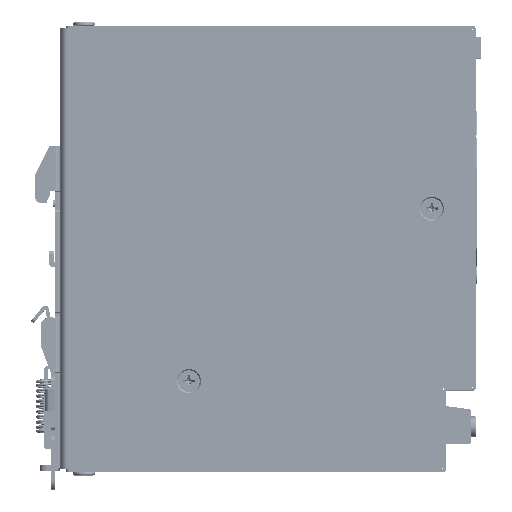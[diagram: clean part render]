
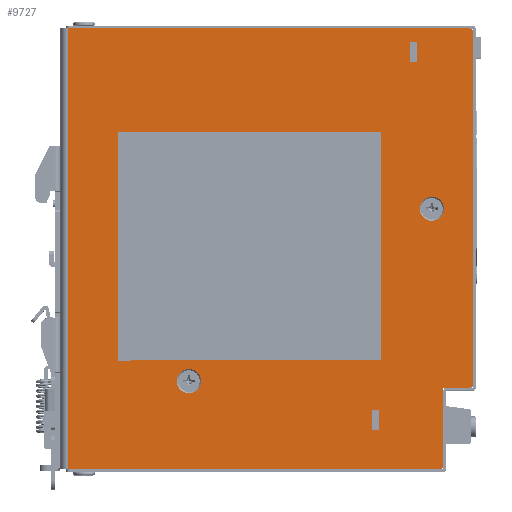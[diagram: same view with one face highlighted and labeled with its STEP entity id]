
A CAD part, top view. The second image highlights one B-rep face of the part: STEP entity #9727.
In plain terms, the highlighted planar face has unit normal (0, 0, 1).
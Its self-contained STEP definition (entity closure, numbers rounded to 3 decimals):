
#4291=DIRECTION('',(0.,-1.,0.));
#4292=VECTOR('',#4291,122.4);
#4293=CARTESIAN_POINT('',(0.5,61.2,20.));
#4294=LINE('',#4293,#4292);
#4321=CARTESIAN_POINT('',(112.1,60.2,20.));
#4322=DIRECTION('',(0.,0.,1.));
#4323=DIRECTION('',(1.,0.,0.));
#4324=AXIS2_PLACEMENT_3D('',#4321,#4322,#4323);
#4329=DIRECTION('',(0.,1.,0.));
#4330=VECTOR('',#4329,97.8);
#4331=CARTESIAN_POINT('',(113.1,-37.6,20.));
#4332=LINE('',#4331,#4330);
#4336=CARTESIAN_POINT('',(112.1,-37.6,20.));
#4337=DIRECTION('',(0.,0.,1.));
#4338=DIRECTION('',(0.,-1.,0.));
#4339=AXIS2_PLACEMENT_3D('',#4336,#4337,#4338);
#4344=DIRECTION('',(-1.,0.,0.));
#4345=VECTOR('',#4344,7.2);
#4346=CARTESIAN_POINT('',(112.1,-38.6,20.));
#4347=LINE('',#4346,#4345);
#4351=DIRECTION('',(0.,1.,0.));
#4352=VECTOR('',#4351,21.6);
#4353=CARTESIAN_POINT('',(104.9,-60.2,20.));
#4354=LINE('',#4353,#4352);
#4358=CARTESIAN_POINT('',(103.9,-60.2,20.));
#4359=DIRECTION('',(0.,0.,1.));
#4360=DIRECTION('',(0.,-1.,0.));
#4361=AXIS2_PLACEMENT_3D('',#4358,#4359,#4360);
#4366=DIRECTION('',(1.,0.,0.));
#4367=VECTOR('',#4366,103.4);
#4368=CARTESIAN_POINT('',(0.5,-61.2,20.));
#4369=LINE('',#4368,#4367);
#4373=DIRECTION('',(-1.,0.,0.));
#4374=VECTOR('',#4373,111.6);
#4375=CARTESIAN_POINT('',(112.1,61.2,20.));
#4376=LINE('',#4375,#4374);
#4380=CARTESIAN_POINT('',(101.7,11.1,20.));
#4381=DIRECTION('',(0.,0.,1.));
#4382=DIRECTION('',(-1.,0.,0.));
#4383=AXIS2_PLACEMENT_3D('',#4380,#4381,#4382);
#4388=CARTESIAN_POINT('',(101.7,11.1,20.));
#4389=DIRECTION('',(0.,0.,1.));
#4390=DIRECTION('',(1.,0.,0.));
#4391=AXIS2_PLACEMENT_3D('',#4388,#4389,#4390);
#4396=DIRECTION('',(0.,-1.,0.));
#4397=VECTOR('',#4396,5.6);
#4398=CARTESIAN_POINT('',(97.55,57.5,20.));
#4399=LINE('',#4398,#4397);
#4403=DIRECTION('',(1.,0.,0.));
#4404=VECTOR('',#4403,1.9);
#4405=CARTESIAN_POINT('',(95.65,57.5,20.));
#4406=LINE('',#4405,#4404);
#4410=DIRECTION('',(0.,1.,0.));
#4411=VECTOR('',#4410,5.6);
#4412=CARTESIAN_POINT('',(95.65,51.9,20.));
#4413=LINE('',#4412,#4411);
#4417=DIRECTION('',(-1.,0.,0.));
#4418=VECTOR('',#4417,1.9);
#4419=CARTESIAN_POINT('',(97.55,51.9,20.));
#4420=LINE('',#4419,#4418);
#4424=DIRECTION('',(0.,-1.,0.));
#4425=VECTOR('',#4424,5.6);
#4426=CARTESIAN_POINT('',(87.05,-44.8,20.));
#4427=LINE('',#4426,#4425);
#4431=DIRECTION('',(1.,0.,0.));
#4432=VECTOR('',#4431,1.9);
#4433=CARTESIAN_POINT('',(85.15,-44.8,20.));
#4434=LINE('',#4433,#4432);
#4438=DIRECTION('',(0.,1.,0.));
#4439=VECTOR('',#4438,5.6);
#4440=CARTESIAN_POINT('',(85.15,-50.4,20.));
#4441=LINE('',#4440,#4439);
#4445=DIRECTION('',(-1.,0.,0.));
#4446=VECTOR('',#4445,1.9);
#4447=CARTESIAN_POINT('',(87.05,-50.4,20.));
#4448=LINE('',#4447,#4446);
#4452=CARTESIAN_POINT('',(34.2,-36.8,20.));
#4453=DIRECTION('',(0.,0.,1.));
#4454=DIRECTION('',(-1.,0.,0.));
#4455=AXIS2_PLACEMENT_3D('',#4452,#4453,#4454);
#4460=CARTESIAN_POINT('',(34.2,-36.8,20.));
#4461=DIRECTION('',(0.,0.,1.));
#4462=DIRECTION('',(1.,0.,0.));
#4463=AXIS2_PLACEMENT_3D('',#4460,#4461,#4462);
#4468=DIRECTION('',(-1.,0.,0.));
#4469=VECTOR('',#4468,0.2);
#4470=CARTESIAN_POINT('',(14.7,7.3,20.));
#4471=LINE('',#4470,#4469);
#4475=DIRECTION('',(0.,-1.,0.));
#4476=VECTOR('',#4475,20.);
#4477=CARTESIAN_POINT('',(14.5,7.3,20.));
#4478=LINE('',#4477,#4476);
#4482=DIRECTION('',(1.,0.,0.));
#4483=VECTOR('',#4482,0.2);
#4484=CARTESIAN_POINT('',(14.5,-12.7,20.));
#4485=LINE('',#4484,#4483);
#4489=DIRECTION('',(0.,1.,0.));
#4490=VECTOR('',#4489,20.);
#4491=CARTESIAN_POINT('',(14.7,-12.7,20.));
#4492=LINE('',#4491,#4490);
#4496=DIRECTION('',(0.,1.,0.));
#4497=VECTOR('',#4496,0.2);
#4498=CARTESIAN_POINT('',(18.,-31.2,20.));
#4499=LINE('',#4498,#4497);
#4503=DIRECTION('',(-1.,0.,0.));
#4504=VECTOR('',#4503,3.3);
#4505=CARTESIAN_POINT('',(18.,-31.,20.));
#4506=LINE('',#4505,#4504);
#4510=DIRECTION('',(0.,1.,0.));
#4511=VECTOR('',#4510,3.3);
#4512=CARTESIAN_POINT('',(14.7,-31.,20.));
#4513=LINE('',#4512,#4511);
#4517=DIRECTION('',(-1.,0.,0.));
#4518=VECTOR('',#4517,0.2);
#4519=CARTESIAN_POINT('',(14.7,-27.7,20.));
#4520=LINE('',#4519,#4518);
#4524=DIRECTION('',(0.,-1.,0.));
#4525=VECTOR('',#4524,3.5);
#4526=CARTESIAN_POINT('',(14.5,-27.7,20.));
#4527=LINE('',#4526,#4525);
#4531=DIRECTION('',(1.,0.,0.));
#4532=VECTOR('',#4531,3.5);
#4533=CARTESIAN_POINT('',(14.5,-31.2,20.));
#4534=LINE('',#4533,#4532);
#5204=CARTESIAN_POINT('',(0.5,61.2,20.));
#5205=CARTESIAN_POINT('',(0.5,-61.2,20.));
#5206=VERTEX_POINT('',#5204);
#5207=VERTEX_POINT('',#5205);
#5473=CARTESIAN_POINT('',(104.9,-38.6,20.));
#5475=VERTEX_POINT('',#5473);
#5488=CARTESIAN_POINT('',(87.05,-44.8,20.));
#5489=CARTESIAN_POINT('',(87.05,-50.4,20.));
#5490=VERTEX_POINT('',#5488);
#5491=VERTEX_POINT('',#5489);
#5492=CARTESIAN_POINT('',(85.15,-50.4,20.));
#5493=VERTEX_POINT('',#5492);
#5494=CARTESIAN_POINT('',(85.15,-44.8,20.));
#5495=VERTEX_POINT('',#5494);
#5504=CARTESIAN_POINT('',(97.55,57.5,20.));
#5505=CARTESIAN_POINT('',(97.55,51.9,20.));
#5506=VERTEX_POINT('',#5504);
#5507=VERTEX_POINT('',#5505);
#5508=CARTESIAN_POINT('',(95.65,51.9,20.));
#5509=VERTEX_POINT('',#5508);
#5510=CARTESIAN_POINT('',(95.65,57.5,20.));
#5511=VERTEX_POINT('',#5510);
#5804=CARTESIAN_POINT('',(113.1,60.2,20.));
#5805=CARTESIAN_POINT('',(112.1,61.2,20.));
#5806=VERTEX_POINT('',#5804);
#5807=VERTEX_POINT('',#5805);
#5822=CARTESIAN_POINT('',(113.1,-37.6,20.));
#5823=VERTEX_POINT('',#5822);
#5830=CARTESIAN_POINT('',(112.1,-38.6,20.));
#5831=VERTEX_POINT('',#5830);
#5840=CARTESIAN_POINT('',(103.9,-61.2,20.));
#5841=VERTEX_POINT('',#5840);
#5842=CARTESIAN_POINT('',(104.9,-60.2,20.));
#5843=VERTEX_POINT('',#5842);
#6006=CARTESIAN_POINT('',(98.35,11.1,20.));
#6007=CARTESIAN_POINT('',(105.05,11.1,20.));
#6008=VERTEX_POINT('',#6006);
#6009=VERTEX_POINT('',#6007);
#6014=CARTESIAN_POINT('',(30.84,-36.8,20.));
#6015=CARTESIAN_POINT('',(37.56,-36.8,20.));
#6016=VERTEX_POINT('',#6014);
#6017=VERTEX_POINT('',#6015);
#6042=CARTESIAN_POINT('',(14.7,7.3,20.));
#6043=CARTESIAN_POINT('',(14.5,7.3,20.));
#6044=VERTEX_POINT('',#6042);
#6045=VERTEX_POINT('',#6043);
#6046=CARTESIAN_POINT('',(14.5,-12.7,20.));
#6047=VERTEX_POINT('',#6046);
#6048=CARTESIAN_POINT('',(14.7,-12.7,20.));
#6049=VERTEX_POINT('',#6048);
#6050=CARTESIAN_POINT('',(18.,-31.2,20.));
#6051=CARTESIAN_POINT('',(18.,-31.,20.));
#6052=VERTEX_POINT('',#6050);
#6053=VERTEX_POINT('',#6051);
#6054=CARTESIAN_POINT('',(14.7,-31.,20.));
#6055=VERTEX_POINT('',#6054);
#6056=CARTESIAN_POINT('',(14.7,-27.7,20.));
#6057=VERTEX_POINT('',#6056);
#6058=CARTESIAN_POINT('',(14.5,-27.7,20.));
#6059=VERTEX_POINT('',#6058);
#6060=CARTESIAN_POINT('',(14.5,-31.2,20.));
#6061=VERTEX_POINT('',#6060);
#9647=CARTESIAN_POINT('',(-1.5,-61.2,20.));
#9648=DIRECTION('',(0.,0.,1.));
#9649=DIRECTION('',(0.,-1.,0.));
#9650=AXIS2_PLACEMENT_3D('',#9647,#9648,#9649);
#9651=PLANE('',#9650);
#9653=ORIENTED_EDGE('',*,*,#9652,.F.);
#9655=ORIENTED_EDGE('',*,*,#9654,.F.);
#9657=ORIENTED_EDGE('',*,*,#9656,.F.);
#9659=ORIENTED_EDGE('',*,*,#9658,.T.);
#9661=ORIENTED_EDGE('',*,*,#9660,.F.);
#9663=ORIENTED_EDGE('',*,*,#9662,.F.);
#9665=ORIENTED_EDGE('',*,*,#9664,.F.);
#9666=ORIENTED_EDGE('',*,*,#9638,.F.);
#9668=ORIENTED_EDGE('',*,*,#9667,.F.);
#9669=EDGE_LOOP('',(#9653,#9655,#9657,#9659,#9661,#9663,#9665,#9666,#9668));
#9670=FACE_OUTER_BOUND('',#9669,.F.);
#9672=ORIENTED_EDGE('',*,*,#9671,.T.);
#9674=ORIENTED_EDGE('',*,*,#9673,.T.);
#9675=EDGE_LOOP('',(#9672,#9674));
#9676=FACE_BOUND('',#9675,.F.);
#9678=ORIENTED_EDGE('',*,*,#9677,.F.);
#9680=ORIENTED_EDGE('',*,*,#9679,.F.);
#9682=ORIENTED_EDGE('',*,*,#9681,.F.);
#9684=ORIENTED_EDGE('',*,*,#9683,.F.);
#9685=EDGE_LOOP('',(#9678,#9680,#9682,#9684));
#9686=FACE_BOUND('',#9685,.F.);
#9688=ORIENTED_EDGE('',*,*,#9687,.F.);
#9690=ORIENTED_EDGE('',*,*,#9689,.F.);
#9692=ORIENTED_EDGE('',*,*,#9691,.F.);
#9694=ORIENTED_EDGE('',*,*,#9693,.F.);
#9695=EDGE_LOOP('',(#9688,#9690,#9692,#9694));
#9696=FACE_BOUND('',#9695,.F.);
#9698=ORIENTED_EDGE('',*,*,#9697,.T.);
#9700=ORIENTED_EDGE('',*,*,#9699,.T.);
#9701=EDGE_LOOP('',(#9698,#9700));
#9702=FACE_BOUND('',#9701,.F.);
#9704=ORIENTED_EDGE('',*,*,#9703,.T.);
#9706=ORIENTED_EDGE('',*,*,#9705,.T.);
#9708=ORIENTED_EDGE('',*,*,#9707,.T.);
#9710=ORIENTED_EDGE('',*,*,#9709,.T.);
#9711=EDGE_LOOP('',(#9704,#9706,#9708,#9710));
#9712=FACE_BOUND('',#9711,.F.);
#9714=ORIENTED_EDGE('',*,*,#9713,.T.);
#9716=ORIENTED_EDGE('',*,*,#9715,.T.);
#9718=ORIENTED_EDGE('',*,*,#9717,.T.);
#9720=ORIENTED_EDGE('',*,*,#9719,.T.);
#9722=ORIENTED_EDGE('',*,*,#9721,.T.);
#9724=ORIENTED_EDGE('',*,*,#9723,.T.);
#9725=EDGE_LOOP('',(#9714,#9716,#9718,#9720,#9722,#9724));
#9726=FACE_BOUND('',#9725,.F.);
#4325=CIRCLE('',#4324,1.);
#4340=CIRCLE('',#4339,1.);
#4362=CIRCLE('',#4361,1.);
#4384=CIRCLE('',#4383,3.35);
#4392=CIRCLE('',#4391,3.35);
#4456=CIRCLE('',#4455,3.36);
#4464=CIRCLE('',#4463,3.36);
#9638=EDGE_CURVE('',#5206,#5207,#4294,.T.);
#9652=EDGE_CURVE('',#5806,#5807,#4325,.T.);
#9654=EDGE_CURVE('',#5823,#5806,#4332,.T.);
#9656=EDGE_CURVE('',#5831,#5823,#4340,.T.);
#9658=EDGE_CURVE('',#5831,#5475,#4347,.T.);
#9660=EDGE_CURVE('',#5843,#5475,#4354,.T.);
#9662=EDGE_CURVE('',#5841,#5843,#4362,.T.);
#9664=EDGE_CURVE('',#5207,#5841,#4369,.T.);
#9667=EDGE_CURVE('',#5807,#5206,#4376,.T.);
#9671=EDGE_CURVE('',#6008,#6009,#4384,.T.);
#9673=EDGE_CURVE('',#6009,#6008,#4392,.T.);
#9677=EDGE_CURVE('',#5506,#5507,#4399,.T.);
#9679=EDGE_CURVE('',#5511,#5506,#4406,.T.);
#9681=EDGE_CURVE('',#5509,#5511,#4413,.T.);
#9683=EDGE_CURVE('',#5507,#5509,#4420,.T.);
#9687=EDGE_CURVE('',#5490,#5491,#4427,.T.);
#9689=EDGE_CURVE('',#5495,#5490,#4434,.T.);
#9691=EDGE_CURVE('',#5493,#5495,#4441,.T.);
#9693=EDGE_CURVE('',#5491,#5493,#4448,.T.);
#9697=EDGE_CURVE('',#6016,#6017,#4456,.T.);
#9699=EDGE_CURVE('',#6017,#6016,#4464,.T.);
#9703=EDGE_CURVE('',#6044,#6045,#4471,.T.);
#9705=EDGE_CURVE('',#6045,#6047,#4478,.T.);
#9707=EDGE_CURVE('',#6047,#6049,#4485,.T.);
#9709=EDGE_CURVE('',#6049,#6044,#4492,.T.);
#9713=EDGE_CURVE('',#6052,#6053,#4499,.T.);
#9715=EDGE_CURVE('',#6053,#6055,#4506,.T.);
#9717=EDGE_CURVE('',#6055,#6057,#4513,.T.);
#9719=EDGE_CURVE('',#6057,#6059,#4520,.T.);
#9721=EDGE_CURVE('',#6059,#6061,#4527,.T.);
#9723=EDGE_CURVE('',#6061,#6052,#4534,.T.);
#9727=ADVANCED_FACE('',(#9670,#9676,#9686,#9696,#9702,#9712,#9726),#9651,.T.);
